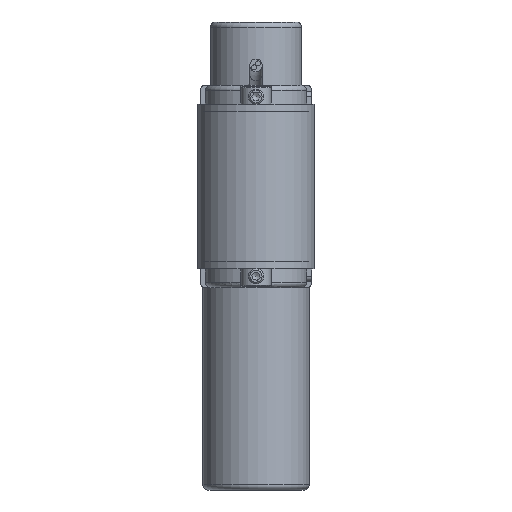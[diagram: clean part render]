
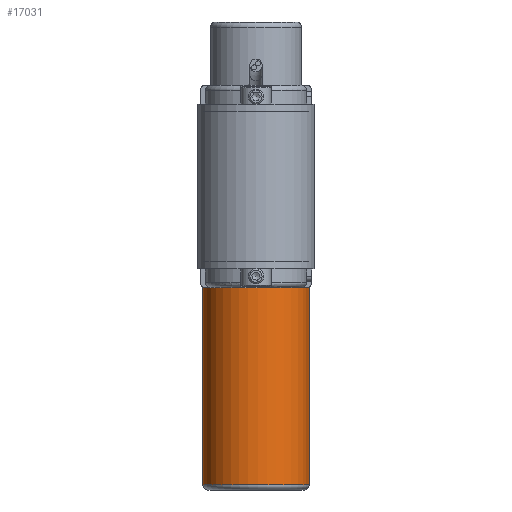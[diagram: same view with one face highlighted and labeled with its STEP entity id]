
A CAD part, front view. The second image highlights one B-rep face of the part: STEP entity #17031.
In plain terms, the highlighted cylindrical face has radius 21 mm (diameter 42 mm), a full revolution.
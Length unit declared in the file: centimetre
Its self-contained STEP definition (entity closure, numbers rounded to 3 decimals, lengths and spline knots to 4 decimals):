
#1903=FACE_OUTER_BOUND('',#2897,.T.);
#2897=EDGE_LOOP('',(#14975,#14976,#14977,#14978,#14979,#14980,#14981,#14982));
#4165=LINE('',#29543,#5430);
#5430=VECTOR('',#23333,2.1);
#6257=CIRCLE('',#18735,2.1);
#6258=CIRCLE('',#18736,2.1);
#6259=CIRCLE('',#18737,2.1);
#6262=CIRCLE('',#18742,2.1);
#6263=CIRCLE('',#18743,2.1);
#6264=CIRCLE('',#18744,2.1);
#7880=VERTEX_POINT('',#29524);
#7881=VERTEX_POINT('',#29526);
#7882=VERTEX_POINT('',#29528);
#7885=VERTEX_POINT('',#29538);
#7886=VERTEX_POINT('',#29539);
#7887=VERTEX_POINT('',#29541);
#10245=EDGE_CURVE('',#7881,#7880,#6257,.T.);
#10246=EDGE_CURVE('',#7882,#7881,#6258,.T.);
#10247=EDGE_CURVE('',#7880,#7882,#6259,.T.);
#10251=EDGE_CURVE('',#7885,#7886,#6262,.T.);
#10252=EDGE_CURVE('',#7887,#7885,#6263,.T.);
#10253=EDGE_CURVE('',#7887,#7881,#4165,.T.);
#10254=EDGE_CURVE('',#7886,#7887,#6264,.T.);
#14975=ORIENTED_EDGE('',*,*,#10251,.F.);
#14976=ORIENTED_EDGE('',*,*,#10252,.F.);
#14977=ORIENTED_EDGE('',*,*,#10253,.T.);
#14978=ORIENTED_EDGE('',*,*,#10245,.T.);
#14979=ORIENTED_EDGE('',*,*,#10247,.T.);
#14980=ORIENTED_EDGE('',*,*,#10246,.T.);
#14981=ORIENTED_EDGE('',*,*,#10253,.F.);
#14982=ORIENTED_EDGE('',*,*,#10254,.F.);
#15268=CYLINDRICAL_SURFACE('',#18741,2.1);
#17031=ADVANCED_FACE('',(#1903),#15268,.T.);
#18735=AXIS2_PLACEMENT_3D('',#29527,#23314,#23315);
#18736=AXIS2_PLACEMENT_3D('',#29529,#23316,#23317);
#18737=AXIS2_PLACEMENT_3D('',#29530,#23318,#23319);
#18741=AXIS2_PLACEMENT_3D('',#29537,#23327,#23328);
#18742=AXIS2_PLACEMENT_3D('',#29540,#23329,#23330);
#18743=AXIS2_PLACEMENT_3D('',#29542,#23331,#23332);
#18744=AXIS2_PLACEMENT_3D('',#29544,#23334,#23335);
#23314=DIRECTION('center_axis',(0.,0.,
-1.));
#23315=DIRECTION('ref_axis',(-0.667,0.745,0.));
#23316=DIRECTION('center_axis',(0.,0.,
-1.));
#23317=DIRECTION('ref_axis',(-0.667,0.745,0.));
#23318=DIRECTION('center_axis',(0.,0.,
-1.));
#23319=DIRECTION('ref_axis',(-0.667,0.745,0.));
#23327=DIRECTION('center_axis',(0.,0.,
-1.));
#23328=DIRECTION('ref_axis',(-0.667,0.745,0.));
#23329=DIRECTION('center_axis',(0.,0.,
-1.));
#23330=DIRECTION('ref_axis',(-0.667,0.745,0.));
#23331=DIRECTION('center_axis',(0.,0.,
-1.));
#23332=DIRECTION('ref_axis',(-0.667,0.745,0.));
#23333=DIRECTION('',(0.,0.,1.));
#23334=DIRECTION('center_axis',(0.,0.,
-1.));
#23335=DIRECTION('ref_axis',(-0.667,0.745,0.));
#29524=CARTESIAN_POINT('',(-1.5649,5.4896,-4.));
#29526=CARTESIAN_POINT('',(1.4004,5.3251,-4.));
#29527=CARTESIAN_POINT('Origin',(0.,6.89,-4.));
#29528=CARTESIAN_POINT('',(-1.4004,8.4549,-4.));
#29529=CARTESIAN_POINT('Origin',(0.,6.89,-4.));
#29530=CARTESIAN_POINT('Origin',(0.,6.89,-4.));
#29537=CARTESIAN_POINT('Origin',(0.,6.89,-7.55));
#29538=CARTESIAN_POINT('',(-1.4004,8.4549,-11.8));
#29539=CARTESIAN_POINT('',(1.5649,8.2904,-11.8));
#29540=CARTESIAN_POINT('Origin',(0.,6.89,-11.8));
#29541=CARTESIAN_POINT('',(1.4004,5.3251,-11.8));
#29542=CARTESIAN_POINT('Origin',(0.,6.89,-11.8));
#29543=CARTESIAN_POINT('',(1.4004,5.3251,-7.55));
#29544=CARTESIAN_POINT('Origin',(0.,6.89,-11.8));
